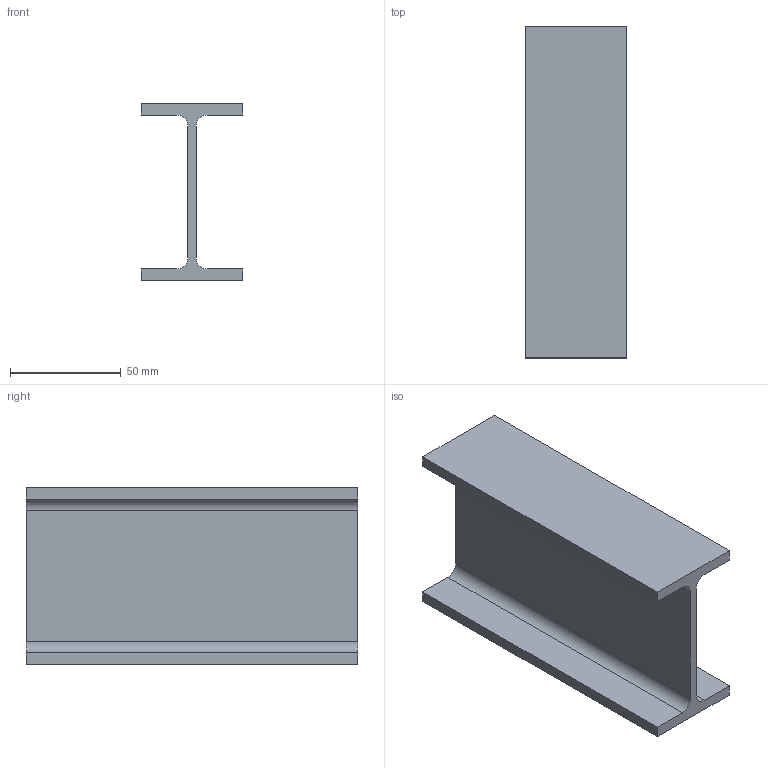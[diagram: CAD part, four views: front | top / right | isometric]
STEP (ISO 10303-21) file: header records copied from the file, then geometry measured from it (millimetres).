
FILE_DESCRIPTION (( 'STEP AP214' ), '1' );
FILE_NAME ('3D_MINI_MAIS_PLUS_QUE_CELA_JE_NE_PEUX_PAS.STEP', '2018-03-01T11:27:07', ( 'Utente' ), ( '' ), 'SwSTEP 2.0', 'SolidWorks 2016', '' );
FILE_SCHEMA (( 'AUTOMOTIVE_DESIGN' ));
Length unit declared in the file: millimetre
Products named in the file (3): 010RCM700110_IPE 80MARTI-1^3D_MINI_MAIS_PLUS_QUE_CELA_JE_NE_PEUX_PAS; Group2^3D_MINI_MAIS_PLUS_QUE_CELA_JE_NE_PEUX_PAS; 3D_MINI_MAIS_PLUS_QUE_CELA_JE_NE_PEUX_PAS
Assembly tree (2 placements, depth 2):
  3D_MINI_MAIS_PLUS_QUE_CELA_JE_NE_PEUX_PAS
    Group2^3D_MINI_MAIS_PLUS_QUE_CELA_JE_NE_PEUX_PAS
    010RCM700110_IPE 80MARTI-1^3D_MINI_MAIS_PLUS_QUE_CELA_JE_NE_PEUX_PAS
Bounding box: 46 x 150 x 80 mm (x, y, z)
Volume: 111022.8 mm3; surface area: 54434.5 mm2
Topology: 2 solids, 2 shells, 99 faces, 240 edges, 160 vertices
Faces by surface type: plane 93, cylinder 6
Entity records: 2956 total; most frequent: CARTESIAN_POINT 504, ORIENTED_EDGE 480, DIRECTION 460, EDGE_CURVE 240, VECTOR 228, LINE 228, VERTEX_POINT 160, AXIS2_PLACEMENT_3D 116
